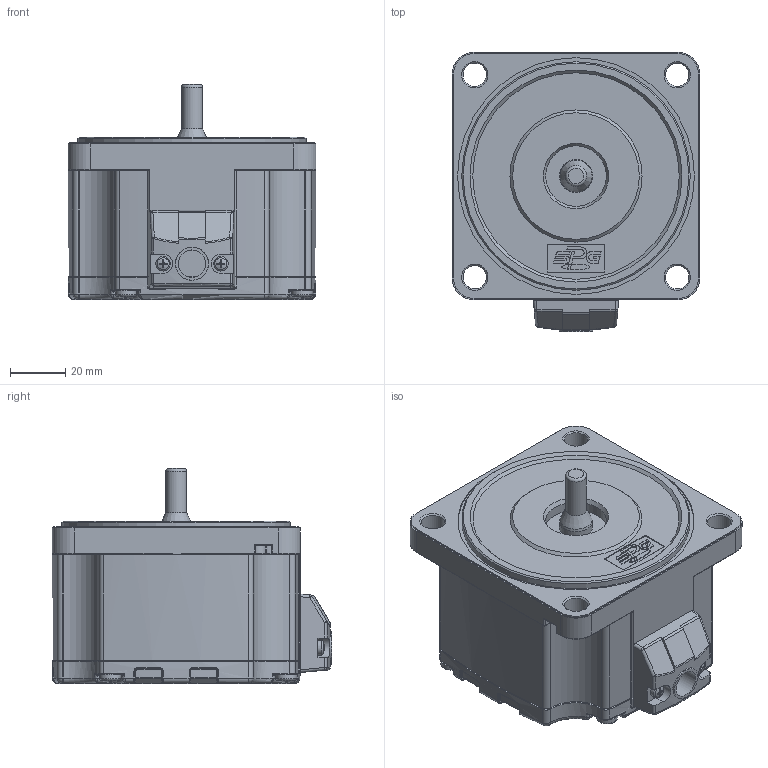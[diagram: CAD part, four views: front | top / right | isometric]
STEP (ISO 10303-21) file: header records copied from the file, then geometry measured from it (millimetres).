
FILE_DESCRIPTION((''),'2;1');
FILE_NAME('C:\Documents and Settings\Administrator\바탕 화면\BLDC 3D FILE\GEAR HEAD ASS''Y\60\MOTOR\90\90-G TYPE.stp','2014-06-19T12:53:34',('kdhkdh'),(''),'Autodesk Inventor 2011','Autodesk Inventor 2011','');
FILE_SCHEMA(('AUTOMOTIVE_DESIGN { 1 0 10303 214 1 1 1 1 }'));
Length unit declared in the file: millimetre
Products named in the file (1): 부품6
Bounding box: 90 x 101.5 x 78.1 mm (x, y, z)
Volume: 407234.5 mm3; surface area: 53010.1 mm2
Topology: 1 solids, 8 shells, 870 faces, 2173 edges, 1268 vertices
Faces by surface type: cylinder 266, plane 221, torus 135, bspline 134, cone 88, sphere 26
Full cylindrical faces by diameter (mm): 2.729 x2, 3 x2, 3.5 x2, 3.621 x4, 4 x8, 4.5 x4, 5.3 x2, 7.62 x1, 7.64 x4, 8.5 x4, 10 x1, 12 x2, 22 x1, 70 x1, 83 x2, 86 x2
Entity records: 29201 total; most frequent: CARTESIAN_POINT 9831, DIRECTION 3988, ORIENTED_EDGE 3966, EDGE_CURVE 1983, AXIS2_PLACEMENT_3D 1674, VERTEX_POINT 1227, EDGE_LOOP 996, CIRCLE 899
